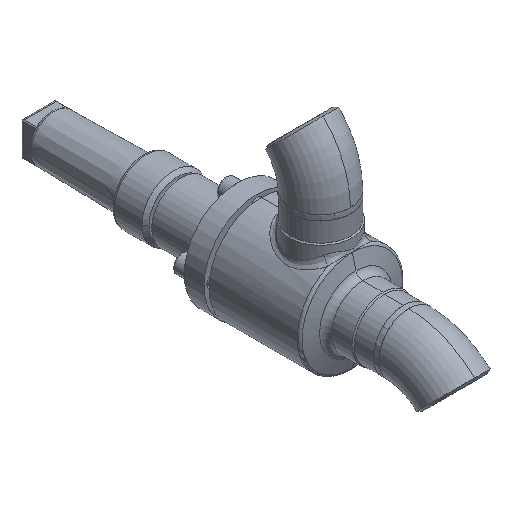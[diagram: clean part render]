
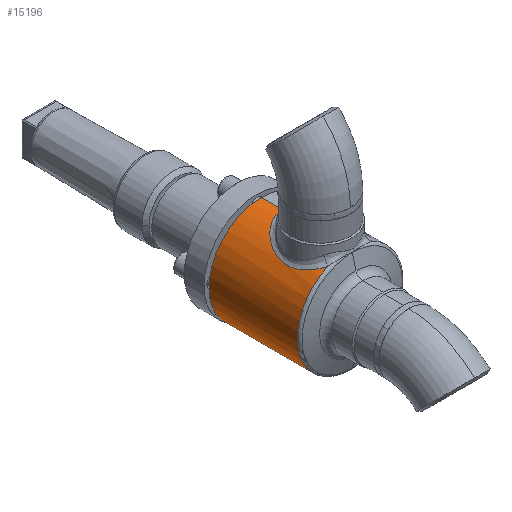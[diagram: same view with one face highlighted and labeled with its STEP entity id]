
A CAD part, isometric view. The second image highlights one B-rep face of the part: STEP entity #15196.
In plain terms, the highlighted cylindrical face has radius 37 mm (diameter 74 mm), a partial arc.
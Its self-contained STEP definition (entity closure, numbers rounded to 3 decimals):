
#16880 = CARTESIAN_POINT ( 'NONE',  ( 0., 0., 37. ) ) ;
#18779 = CARTESIAN_POINT ( 'NONE',  ( 0., 0., -37. ) ) ;
#18981 = B_SPLINE_CURVE_WITH_KNOTS ( 'NONE', 3,
 ( #18982, #18983, #19001, #19002, #19003, #19004, #19005, #19006, #19007, #19008, #19009, #19010, #19011, #19012, #19013, #19014, #19015, #19016, #19037, #19038, #19039, #19040, #19041, #19042, #19043, #19044, #19045, #19046, #19047, #19048, #19049, #19050, #19051, #19052, #19071, #19072, #19073, #19074, #19075, #19076, #19077, #19078, #19079, #19080, #19081, #19082, #19083, #19084 ),
 .UNSPECIFIED., .F., .F.,
 ( 4, 2, 2, 2, 2, 2, 2, 2, 2, 2, 2, 2, 2, 2, 2, 2, 2, 2, 2, 2, 2, 2, 2, 4 ),
 ( 0., 0.004, 0.008, 0.01, 0.012, 0.016, 0.018, 0.02, 0.024, 0.026, 0.028, 0.03, 0.032, 0.036, 0.04, 0.042, 0.044, 0.048, 0.05, 0.052, 0.056, 0.058, 0.06, 0.064 ),
 .UNSPECIFIED. ) ;
#18982 = CARTESIAN_POINT ( 'NONE',  ( -15.535, -62.446, 33.581 ) ) ;
#18983 = CARTESIAN_POINT ( 'NONE',  ( -16.452, -61.548, 33.157 ) ) ;
#19001 = CARTESIAN_POINT ( 'NONE',  ( -17.286, -60.594, 32.725 ) ) ;
#19002 = CARTESIAN_POINT ( 'NONE',  ( -18.811, -58.577, 31.873 ) ) ;
#19003 = CARTESIAN_POINT ( 'NONE',  ( -19.502, -57.514, 31.452 ) ) ;
#19004 = CARTESIAN_POINT ( 'NONE',  ( -20.434, -55.835, 30.848 ) ) ;
#19005 = CARTESIAN_POINT ( 'NONE',  ( -20.728, -55.259, 30.65 ) ) ;
#19006 = CARTESIAN_POINT ( 'NONE',  ( -21.277, -54.088, 30.272 ) ) ;
#19007 = CARTESIAN_POINT ( 'NONE',  ( -21.531, -53.494, 30.092 ) ) ;
#19008 = CARTESIAN_POINT ( 'NONE',  ( -22.233, -51.685, 29.581 ) ) ;
#19009 = CARTESIAN_POINT ( 'NONE',  ( -22.624, -50.442, 29.28 ) ) ;
#19010 = CARTESIAN_POINT ( 'NONE',  ( -23.09, -48.518, 28.912 ) ) ;
#19011 = CARTESIAN_POINT ( 'NONE',  ( -23.225, -47.864, 28.803 ) ) ;
#19012 = CARTESIAN_POINT ( 'NONE',  ( -23.453, -46.548, 28.618 ) ) ;
#19013 = CARTESIAN_POINT ( 'NONE',  ( -23.545, -45.887, 28.542 ) ) ;
#19014 = CARTESIAN_POINT ( 'NONE',  ( -23.756, -43.897, 28.367 ) ) ;
#19015 = CARTESIAN_POINT ( 'NONE',  ( -23.81, -42.56, 28.321 ) ) ;
#19016 = CARTESIAN_POINT ( 'NONE',  ( -23.758, -40.538, 28.365 ) ) ;
#19037 = CARTESIAN_POINT ( 'NONE',  ( -23.718, -39.862, 28.398 ) ) ;
#19038 = CARTESIAN_POINT ( 'NONE',  ( -23.596, -38.528, 28.5 ) ) ;
#19039 = CARTESIAN_POINT ( 'NONE',  ( -23.513, -37.867, 28.569 ) ) ;
#19040 = CARTESIAN_POINT ( 'NONE',  ( -23.304, -36.555, 28.739 ) ) ;
#19041 = CARTESIAN_POINT ( 'NONE',  ( -23.179, -35.905, 28.84 ) ) ;
#19042 = CARTESIAN_POINT ( 'NONE',  ( -22.886, -34.615, 29.073 ) ) ;
#19043 = CARTESIAN_POINT ( 'NONE',  ( -22.718, -33.974, 29.205 ) ) ;
#19044 = CARTESIAN_POINT ( 'NONE',  ( -22.153, -32.08, 29.639 ) ) ;
#19045 = CARTESIAN_POINT ( 'NONE',  ( -21.7, -30.866, 29.975 ) ) ;
#19046 = CARTESIAN_POINT ( 'NONE',  ( -20.645, -28.526, 30.712 ) ) ;
#19047 = CARTESIAN_POINT ( 'NONE',  ( -20.043, -27.4, 31.112 ) ) ;
#19048 = CARTESIAN_POINT ( 'NONE',  ( -19.02, -25.773, 31.74 ) ) ;
#19049 = CARTESIAN_POINT ( 'NONE',  ( -18.66, -25.243, 31.953 ) ) ;
#19050 = CARTESIAN_POINT ( 'NONE',  ( -17.908, -24.217, 32.381 ) ) ;
#19051 = CARTESIAN_POINT ( 'NONE',  ( -17.515, -23.72, 32.595 ) ) ;
#19052 = CARTESIAN_POINT ( 'NONE',  ( -16.284, -22.274, 33.237 ) ) ;
#19071 = CARTESIAN_POINT ( 'NONE',  ( -15.395, -21.372, 33.662 ) ) ;
#19072 = CARTESIAN_POINT ( 'NONE',  ( -13.943, -20.115, 34.276 ) ) ;
#19073 = CARTESIAN_POINT ( 'NONE',  ( -13.437, -19.71, 34.478 ) ) ;
#19074 = CARTESIAN_POINT ( 'NONE',  ( -12.398, -18.947, 34.865 ) ) ;
#19075 = CARTESIAN_POINT ( 'NONE',  ( -11.864, -18.588, 35.051 ) ) ;
#19076 = CARTESIAN_POINT ( 'NONE',  ( -10.215, -17.575, 35.581 ) ) ;
#19077 = CARTESIAN_POINT ( 'NONE',  ( -9.054, -16.989, 35.897 ) ) ;
#19078 = CARTESIAN_POINT ( 'NONE',  ( -7.207, -16.258, 36.297 ) ) ;
#19079 = CARTESIAN_POINT ( 'NONE',  ( -6.575, -16.041, 36.417 ) ) ;
#19080 = CARTESIAN_POINT ( 'NONE',  ( -5.29, -15.666, 36.626 ) ) ;
#19081 = CARTESIAN_POINT ( 'NONE',  ( -4.64, -15.508, 36.714 ) ) ;
#19082 = CARTESIAN_POINT ( 'NONE',  ( -2.677, -15.129, 36.926 ) ) ;
#19083 = CARTESIAN_POINT ( 'NONE',  ( -1.349, -15., 37. ) ) ;
#19084 = CARTESIAN_POINT ( 'NONE',  ( 0., -15., 37. ) ) ;
#19182 = LINE ( 'NONE', #19183, #19184 ) ;
#19183 = CARTESIAN_POINT ( 'NONE',  ( 0., -68., -37. ) ) ;
#19184 = VECTOR ( 'NONE', #19185, 1000. ) ;
#19185 = DIRECTION ( 'NONE',  ( 0., 1., 0. ) ) ;
#5861 = VERTEX_POINT ( 'NONE', #14025 ) ;
#6266 = EDGE_CURVE ( 'NONE', #5861, #7887, #14409, .T. ) ;
#23502 = CIRCLE ( 'NONE', #23503, 37. ) ;
#23503 = AXIS2_PLACEMENT_3D ( 'NONE', #23522, #23523, #23524 ) ;
#23522 = CARTESIAN_POINT ( 'NONE',  ( 0., -62.446, 0. ) ) ;
#23523 = DIRECTION ( 'NONE',  ( 0., 1., 0. ) ) ;
#23524 = DIRECTION ( 'NONE',  ( 0., 0., -1. ) ) ;
#7887 = VERTEX_POINT ( 'NONE', #16880 ) ;
#24560 = EDGE_CURVE ( 'NONE', #9925, #7887, #15817, .T. ) ;
#25056 = ORIENTED_EDGE ( 'NONE', *, *, #24560, .F. ) ;
#25995 = ORIENTED_EDGE ( 'NONE', *, *, #6266, .T. ) ;
#9925 = VERTEX_POINT ( 'NONE', #18779 ) ;
#10331 = EDGE_CURVE ( 'NONE', #29453, #9925, #19182, .T. ) ;
#26949 = EDGE_CURVE ( 'NONE', #28580, #5861, #18981, .T. ) ;
#27638 = ORIENTED_EDGE ( 'NONE', *, *, #26949, .T. ) ;
#27851 = CARTESIAN_POINT ( 'NONE',  ( 0., -62.446, -37. ) ) ;
#28580 = VERTEX_POINT ( 'NONE', #13917 ) ;
#28984 = EDGE_CURVE ( 'NONE', #29453, #28580, #23502, .T. ) ;
#29453 = VERTEX_POINT ( 'NONE', #27851 ) ;
#29658 = ORIENTED_EDGE ( 'NONE', *, *, #28984, .T. ) ;
#13818 = ORIENTED_EDGE ( 'NONE', *, *, #10331, .F. ) ;
#13917 = CARTESIAN_POINT ( 'NONE',  ( -15.535, -62.446, 33.581 ) ) ;
#14025 = CARTESIAN_POINT ( 'NONE',  ( 0., -15., 37. ) ) ;
#14409 = LINE ( 'NONE', #14410, #14411 ) ;
#14410 = CARTESIAN_POINT ( 'NONE',  ( 0., -68., 37. ) ) ;
#14411 = VECTOR ( 'NONE', #14412, 1000. ) ;
#14412 = DIRECTION ( 'NONE',  ( 0., 1., 0. ) ) ;
#14578 = FACE_OUTER_BOUND ( 'NONE', #14765, .T. ) ;
#14579 = CYLINDRICAL_SURFACE ( 'NONE', #14580, 37. ) ;
#14580 = AXIS2_PLACEMENT_3D ( 'NONE', #14581, #14582, #14601 ) ;
#14581 = CARTESIAN_POINT ( 'NONE',  ( 0., -68., 0. ) ) ;
#14582 = DIRECTION ( 'NONE',  ( 0., 1., 0. ) ) ;
#14601 = DIRECTION ( 'NONE',  ( 0., 0., 1. ) ) ;
#14765 = EDGE_LOOP ( 'NONE', ( #13818, #29658, #27638, #25995, #25056 ) ) ;
#15196 = ADVANCED_FACE ( 'NONE', ( #14578 ), #14579, .T. ) ;
#15817 = CIRCLE ( 'NONE', #15818, 37. ) ;
#15818 = AXIS2_PLACEMENT_3D ( 'NONE', #15819, #15839, #15840 ) ;
#15819 = CARTESIAN_POINT ( 'NONE',  ( 0., 0., 0. ) ) ;
#15839 = DIRECTION ( 'NONE',  ( 0., 1., 0. ) ) ;
#15840 = DIRECTION ( 'NONE',  ( 0., 0., 1. ) ) ;
